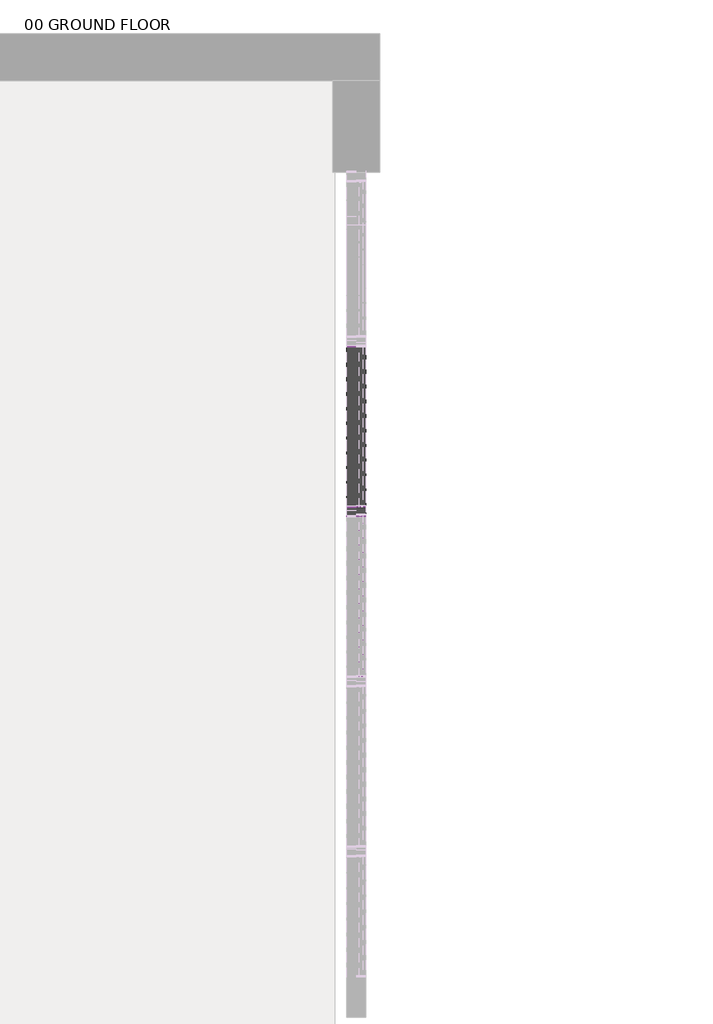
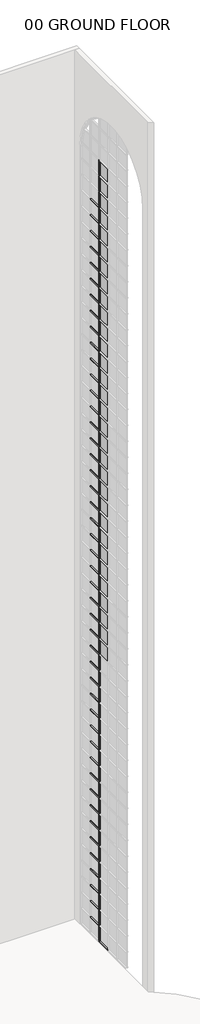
# One storey, part 30 of 33: 96 members, 31 plates.
"""IFC4 building model written with IfcOpenShell, lengths in millimetres."""

import ifcopenshell
import ifcopenshell.guid

model = None  # the IFC model being written
_history = None  # IfcOwnerHistory: only IFC2X3 demands one
_inside = {}  # id of a spatial element -> (the spatial element, [elements in it])
_under = {}  # id of a project, library or spatial element -> (it, [spatial elements below it])
_declared = {}  # id of a project -> (the project, [libraries it declares])
_typed = {}  # id of a type object -> (the type object, [elements of that type])
_made_of = {}  # id of a material, layer set ... -> (it, [elements and type objects made of it])


def new_model(schema):
    """Start an empty IFC model of exactly this schema.

    Asked for "IFC4X3", IfcOpenShell would pick the latest addendum, in which some entities
    have other attributes; the version numbers below select the first issue.
    IFC2X3 requires an IfcOwnerHistory on every rooted entity: one is made here for all.
    """
    global model, _history
    if schema == "IFC4X3":
        model = ifcopenshell.file(schema_version=(4, 3, 0, 0))
    else:
        model = ifcopenshell.file(schema=schema)
    _inside.clear()
    _under.clear()
    _declared.clear()
    _typed.clear()
    _made_of.clear()
    _history = None
    if model.schema == "IFC2X3":
        org = make("IfcOrganization", Name="unknown")
        user = make(
            "IfcPersonAndOrganization",
            ThePerson=make("IfcPerson", FamilyName="unknown"),
            TheOrganization=org,
        )
        app = make(
            "IfcApplication",
            ApplicationDeveloper=org,
            Version="unknown",
            ApplicationFullName="unknown",
            ApplicationIdentifier="unknown",
        )
        _history = make(
            "IfcOwnerHistory",
            OwningUser=user,
            OwningApplication=app,
            ChangeAction="ADDED",
            CreationDate=0,
        )
    return model


def make(cls, **values):
    """One entity of the class cls with the attributes given. An attribute that is None is left unset."""
    return model.create_entity(
        cls, **{name: value for name, value in values.items() if value is not None}
    )


def rooted(cls, **values):
    """An entity with a GlobalId (a new one), such as an element, a storey or a relation."""
    return make(cls, GlobalId=ifcopenshell.guid.new(), OwnerHistory=_history, **values)


def si_unit(unit_type, name, prefix=None):
    """IfcSIUnit, for example si_unit("LENGTHUNIT", "METRE", prefix="MILLI")."""
    return make("IfcSIUnit", UnitType=unit_type, Prefix=prefix, Name=name)


def assignment(units):
    """IfcUnitAssignment: the units of a project."""
    return None if units is None else make("IfcUnitAssignment", Units=units)


def point(xyz):
    """IfcCartesianPoint."""
    return None if xyz is None else make("IfcCartesianPoint", Coordinates=xyz)


def direction(xyz):
    """IfcDirection."""
    return None if xyz is None else make("IfcDirection", DirectionRatios=xyz)


def frame(location, z_axis=None, x_axis=None):
    """IfcAxis2Placement3D, a coordinate frame: its origin and axes. An axis left out is left unset."""
    return make(
        "IfcAxis2Placement3D",
        Location=point(location),
        Axis=direction(z_axis),
        RefDirection=direction(x_axis),
    )


def origin():
    """The frame at (0, 0, 0) with its axes left unset."""
    return frame((0.0, 0.0, 0.0))


def origin_with_axes():
    """The frame at (0, 0, 0) with the z axis (0, 0, 1) and the x axis (1, 0, 0) written out."""
    return frame((0.0, 0.0, 0.0), z_axis=(0.0, 0.0, 1.0), x_axis=(1.0, 0.0, 0.0))


def place(relative_to, where):
    """IfcLocalPlacement: puts the frame where relative to a parent placement (None: the world)."""
    return make(
        "IfcLocalPlacement", PlacementRelTo=relative_to, RelativePlacement=where
    )


def context(
    kind, dimensions, precision=None, world=None, true_north=None, identifier=None
):
    """IfcGeometricRepresentationContext, for example the 3D "Model" context."""
    return make(
        "IfcGeometricRepresentationContext",
        ContextIdentifier=identifier,
        ContextType=kind,
        CoordinateSpaceDimension=dimensions,
        Precision=precision,
        WorldCoordinateSystem=world,
        TrueNorth=true_north,
    )


def project(units=None, contexts=None):
    """IfcProject with its units and contexts."""
    return rooted(
        "IfcProject",
        Name="project",
        RepresentationContexts=contexts,
        UnitsInContext=assignment(units),
    )


def spatial(cls, under=None, at=None, **own):
    """A site, building, storey or space (cls), placed at a placement, below another one or the project."""
    s = rooted(cls, ObjectPlacement=at, **own)
    if under is not None:
        _under.setdefault(under.id(), (under, []))[1].append(s)
    return s


def polyline(points):
    """IfcPolyline through the points."""
    return make("IfcPolyline", Points=[point(p) for p in points])


def outline(outer, holes=None, kind="AREA"):
    """IfcArbitraryClosedProfileDef: a profile drawn as a closed curve; with holes, ...WithVoids."""
    if holes is None:
        return make("IfcArbitraryClosedProfileDef", ProfileType=kind, OuterCurve=outer)
    return make(
        "IfcArbitraryProfileDefWithVoids",
        ProfileType=kind,
        OuterCurve=outer,
        InnerCurves=holes,
    )


def extrude(swept, where, along, depth):
    """IfcExtrudedAreaSolid: the profile swept, set in the frame where, extruded along a direction by depth."""
    return make(
        "IfcExtrudedAreaSolid",
        SweptArea=swept,
        Position=where,
        ExtrudedDirection=direction(along),
        Depth=depth,
    )


def shape(context_of_items, identifier, shape_type, items):
    """IfcShapeRepresentation: the items that make up one representation, for example the "Body"."""
    return make(
        "IfcShapeRepresentation",
        ContextOfItems=context_of_items,
        RepresentationIdentifier=identifier,
        RepresentationType=shape_type,
        Items=items,
    )


def source(mapping_origin, context_of_items, identifier, shape_type, items):
    """IfcRepresentationMap: a shape defined once, which mapped items show again and again."""
    return make(
        "IfcRepresentationMap",
        MappingOrigin=mapping_origin,
        MappedRepresentation=shape(context_of_items, identifier, shape_type, items),
    )


def transform(
    local_origin,
    x_axis=None,
    y_axis=None,
    z_axis=None,
    scale=None,
    scale2=None,
    scale3=None,
    uniform=True,
):
    """IfcCartesianTransformationOperator3D, or its non-uniform kind. x_axis, y_axis, z_axis: its Axis1, 2, 3."""
    if uniform:
        return make(
            "IfcCartesianTransformationOperator3D",
            Axis1=direction(x_axis),
            Axis2=direction(y_axis),
            LocalOrigin=point(local_origin),
            Scale=scale,
            Axis3=direction(z_axis),
        )
    return make(
        "IfcCartesianTransformationOperator3DnonUniform",
        Axis1=direction(x_axis),
        Axis2=direction(y_axis),
        LocalOrigin=point(local_origin),
        Scale=scale,
        Axis3=direction(z_axis),
        Scale2=scale2,
        Scale3=scale3,
    )


def mapped(mapping_source, mapping_target):
    """IfcMappedItem: shows the shape of a source again, moved by a transform."""
    return make(
        "IfcMappedItem", MappingSource=mapping_source, MappingTarget=mapping_target
    )


def made_of(thing, what):
    """Note that an element or type object is made of a material, layer set ...; save() writes the relation."""
    if what is not None:
        _made_of.setdefault(what.id(), (what, []))[1].append(thing)
    return thing


def element(
    cls,
    number,
    at=None,
    inside=None,
    cuts=None,
    type_object=None,
    material=None,
    context=None,
    identifier="Body",
    shape_type=None,
    held_by="IfcProductDefinitionShape",
    body=None,
    shapes=None,
    **own,
):
    """One element of the class cls, such as IfcWall. Its Tag is "e" and its number.

    at: its placement. inside: the storey or other place that contains it. cuts: it is an
    opening in that element (IfcRelVoidsElement). A single representation is given by context,
    identifier, shape_type and body (its items); several are given by shapes. held_by: the class
    of the entity that holds the representations. save() writes the other relations.
    """
    e = rooted(cls, Tag="e%d" % number, ObjectPlacement=at, **own)
    if body is not None:
        shapes = [shape(context, identifier, shape_type, body)]
    if shapes is not None:
        e.Representation = make(held_by, Representations=shapes)
    if inside is not None:
        _inside.setdefault(inside.id(), (inside, []))[1].append(e)
    if cuts is not None:
        rooted(
            "IfcRelVoidsElement", RelatingBuildingElement=cuts, RelatedOpeningElement=e
        )
    if type_object is not None:
        _typed.setdefault(type_object.id(), (type_object, []))[1].append(e)
    return made_of(e, material)


def aggregate(whole, parts):
    """IfcRelAggregates: a whole, such as a stair, and the parts it consists of."""
    return rooted("IfcRelAggregates", RelatingObject=whole, RelatedObjects=parts)


def save(model, path):
    """Write the relations noted so far, then the file.

    IfcRelAggregates (storeys below a building ...), IfcRelContainedInSpatialStructure (elements
    in a storey), IfcRelDefinesByType, IfcRelAssociatesMaterial and IfcRelDeclares: one each for
    every whole, place, type object, material and project.
    """
    for whole, parts in _under.values():
        aggregate(whole, parts)
    for where, things in _inside.values():
        rooted(
            "IfcRelContainedInSpatialStructure",
            RelatedElements=things,
            RelatingStructure=where,
        )
    for kind, things in _typed.values():
        rooted("IfcRelDefinesByType", RelatedObjects=things, RelatingType=kind)
    for what, things in _made_of.values():
        rooted("IfcRelAssociatesMaterial", RelatedObjects=things, RelatingMaterial=what)
    for by, libraries in _declared.values():
        rooted("IfcRelDeclares", RelatingContext=by, RelatedDefinitions=libraries)
    model.write(path)


def member_14f97ceb(model_context):
    return source(origin(), model_context, "Body", "SweptSolid", [
        extrude(outline(polyline([(0.0, 63.5), (0.0, -63.5), (-63.5, -63.5), (-63.5, 63.5), (0.0, 63.5)])), frame((0.0, 0.0, -1068.6142856), z_axis=(0.0, 0.0, 1.0), x_axis=(1.0, 0.0, 0.0)), (0.0, 0.0, 1.0), 1068.6142856),
    ])


def member_d1490fb0(model_context):
    return source(origin(), model_context, "Body", "SweptSolid", [
        extrude(outline(polyline([(31.75, 63.5), (31.75, -63.5), (-31.75, -63.5), (-31.75, 63.5), (31.75, 63.5)])), frame((0.0, 0.0, -1068.6142856), z_axis=(0.0, 0.0, 1.0), x_axis=(1.0, 0.0, 0.0)), (0.0, 0.0, 1.0), 1068.6142856),
    ])


def member_2b49869a(model_context):
    return source(origin(), model_context, "Body", "SweptSolid", [
        extrude(outline(polyline([(31.75, 63.5), (31.75, -63.5), (-31.75, -63.5), (-31.75, 63.5), (31.75, 63.5)])), frame((0.0, 0.0, -1219.2), z_axis=(0.0, 0.0, 1.0), x_axis=(1.0, 0.0, 0.0)), (0.0, 0.0, 1.0), 1219.2),
    ])


def system_panel_glazed_ba000c98(model_context):
    return source(origin(), model_context, "Body", "SweptSolid", [
        extrude(outline(polyline([(534.3071428, 19.05), (-534.3071428, 19.05), (-534.3071428, 44.45), (534.3071428, 44.45), (534.3071428, 19.05)])), origin_with_axes(), (0.0, 0.0, 1.0), 1155.7),
    ])


model = new_model("IFC4")

# Units and contexts
model_context = context("Model", 3, world=origin())
ifc_project = project(units=[si_unit("LENGTHUNIT", "METRE", prefix="MILLI")], contexts=[model_context])

# Site, building, storey
site = spatial("IfcSite", under=ifc_project)
building = spatial("IfcBuilding", under=site)
storey = spatial("IfcBuildingStorey", under=building, Name="00 GROUND FLOOR", Elevation=0.0)

# Members
placement = place(None, origin())
member_shape = member_14f97ceb(model_context)
element("IfcMember", 1, ObjectType="Rectangular Mullion : 2.5\" x 5\" rectangular", at=placement, inside=storey, context=model_context, shape_type="MappedRepresentation", body=[
    mapped(member_shape, transform((44184.4050515, 30777.9964284, 0.0), x_axis=(0.0, 0.0, -1.0), y_axis=(-1.0, 0.0, 0.0), z_axis=(0.0, 1.0, 0.0))),
])
member_2_shape = member_d1490fb0(model_context)
element("IfcMember", 2, ObjectType="Rectangular Mullion : 2.5\" x 5\" rectangular", at=placement, inside=storey, context=model_context, shape_type="MappedRepresentation", body=[
    mapped(member_2_shape, transform((44184.4050515, 30841.4964284, 1219.2), x_axis=(0.0, 0.0, 1.0), y_axis=(-1.0, 0.0, 0.0), z_axis=(0.0, -1.0, 0.0))),
])
element("IfcMember", 3, ObjectType="Rectangular Mullion : 2.5\" x 5\" rectangular", at=placement, inside=storey, context=model_context, shape_type="MappedRepresentation", body=[
    mapped(member_2_shape, transform((44184.4050515, 30841.4964284, 2438.4), x_axis=(0.0, 0.0, 1.0), y_axis=(-1.0, 0.0, 0.0), z_axis=(0.0, -1.0, 0.0))),
])
element("IfcMember", 4, ObjectType="Rectangular Mullion : 2.5\" x 5\" rectangular", at=placement, inside=storey, context=model_context, shape_type="MappedRepresentation", body=[
    mapped(member_2_shape, transform((44184.4050515, 30841.4964284, 3657.6), x_axis=(0.0, 0.0, 1.0), y_axis=(-1.0, 0.0, 0.0), z_axis=(0.0, -1.0, 0.0))),
])
element("IfcMember", 5, ObjectType="Rectangular Mullion : 2.5\" x 5\" rectangular", at=placement, inside=storey, context=model_context, shape_type="MappedRepresentation", body=[
    mapped(member_2_shape, transform((44184.4050515, 30841.4964284, 4876.8), x_axis=(0.0, 0.0, 1.0), y_axis=(-1.0, 0.0, 0.0), z_axis=(0.0, -1.0, 0.0))),
])
element("IfcMember", 6, ObjectType="Rectangular Mullion : 2.5\" x 5\" rectangular", at=placement, inside=storey, context=model_context, shape_type="MappedRepresentation", body=[
    mapped(member_2_shape, transform((44184.4050515, 30841.4964284, 6096.0), x_axis=(0.0, 0.0, 1.0), y_axis=(-1.0, 0.0, 0.0), z_axis=(0.0, -1.0, 0.0))),
])
element("IfcMember", 7, ObjectType="Rectangular Mullion : 2.5\" x 5\" rectangular", at=placement, inside=storey, context=model_context, shape_type="MappedRepresentation", body=[
    mapped(member_2_shape, transform((44184.4050515, 30841.4964284, 7315.2), x_axis=(0.0, 0.0, 1.0), y_axis=(-1.0, 0.0, 0.0), z_axis=(0.0, -1.0, 0.0))),
])
element("IfcMember", 8, ObjectType="Rectangular Mullion : 2.5\" x 5\" rectangular", at=placement, inside=storey, context=model_context, shape_type="MappedRepresentation", body=[
    mapped(member_2_shape, transform((44184.4050515, 30841.4964284, 8534.4), x_axis=(0.0, 0.0, 1.0), y_axis=(-1.0, 0.0, 0.0), z_axis=(0.0, -1.0, 0.0))),
])
element("IfcMember", 9, ObjectType="Rectangular Mullion : 2.5\" x 5\" rectangular", at=placement, inside=storey, context=model_context, shape_type="MappedRepresentation", body=[
    mapped(member_2_shape, transform((44184.4050515, 30841.4964284, 9753.6), x_axis=(0.0, 0.0, 1.0), y_axis=(-1.0, 0.0, 0.0), z_axis=(0.0, -1.0, 0.0))),
])
element("IfcMember", 10, ObjectType="Rectangular Mullion : 2.5\" x 5\" rectangular", at=placement, inside=storey, context=model_context, shape_type="MappedRepresentation", body=[
    mapped(member_2_shape, transform((44184.4050515, 30841.4964284, 10972.8), x_axis=(0.0, 0.0, 1.0), y_axis=(-1.0, 0.0, 0.0), z_axis=(0.0, -1.0, 0.0))),
])
element("IfcMember", 11, ObjectType="Rectangular Mullion : 2.5\" x 5\" rectangular", at=placement, inside=storey, context=model_context, shape_type="MappedRepresentation", body=[
    mapped(member_2_shape, transform((44184.4050515, 30841.4964284, 12192.0), x_axis=(0.0, 0.0, 1.0), y_axis=(-1.0, 0.0, 0.0), z_axis=(0.0, -1.0, 0.0))),
])
element("IfcMember", 12, ObjectType="Rectangular Mullion : 2.5\" x 5\" rectangular", at=placement, inside=storey, context=model_context, shape_type="MappedRepresentation", body=[
    mapped(member_2_shape, transform((44184.4050515, 30841.4964284, 13411.2), x_axis=(0.0, 0.0, 1.0), y_axis=(-1.0, 0.0, 0.0), z_axis=(0.0, -1.0, 0.0))),
])
element("IfcMember", 13, ObjectType="Rectangular Mullion : 2.5\" x 5\" rectangular", at=placement, inside=storey, context=model_context, shape_type="MappedRepresentation", body=[
    mapped(member_2_shape, transform((44184.4050515, 30841.4964284, 14630.4), x_axis=(0.0, 0.0, 1.0), y_axis=(-1.0, 0.0, 0.0), z_axis=(0.0, -1.0, 0.0))),
])
element("IfcMember", 14, ObjectType="Rectangular Mullion : 2.5\" x 5\" rectangular", at=placement, inside=storey, context=model_context, shape_type="MappedRepresentation", body=[
    mapped(member_2_shape, transform((44184.4050515, 30841.4964284, 15849.6), x_axis=(0.0, 0.0, 1.0), y_axis=(-1.0, 0.0, 0.0), z_axis=(0.0, -1.0, 0.0))),
])
element("IfcMember", 15, ObjectType="Rectangular Mullion : 2.5\" x 5\" rectangular", at=placement, inside=storey, context=model_context, shape_type="MappedRepresentation", body=[
    mapped(member_2_shape, transform((44184.4050515, 30841.4964284, 17068.8), x_axis=(0.0, 0.0, 1.0), y_axis=(-1.0, 0.0, 0.0), z_axis=(0.0, -1.0, 0.0))),
])
element("IfcMember", 16, ObjectType="Rectangular Mullion : 2.5\" x 5\" rectangular", at=placement, inside=storey, context=model_context, shape_type="MappedRepresentation", body=[
    mapped(member_2_shape, transform((44184.4050515, 30841.4964284, 18288.0), x_axis=(0.0, 0.0, 1.0), y_axis=(-1.0, 0.0, 0.0), z_axis=(0.0, -1.0, 0.0))),
])
element("IfcMember", 17, ObjectType="Rectangular Mullion : 2.5\" x 5\" rectangular", at=placement, inside=storey, context=model_context, shape_type="MappedRepresentation", body=[
    mapped(member_2_shape, transform((44184.4050515, 30841.4964284, 19507.2), x_axis=(0.0, 0.0, 1.0), y_axis=(-1.0, 0.0, 0.0), z_axis=(0.0, -1.0, 0.0))),
])
element("IfcMember", 18, ObjectType="Rectangular Mullion : 2.5\" x 5\" rectangular", at=placement, inside=storey, context=model_context, shape_type="MappedRepresentation", body=[
    mapped(member_2_shape, transform((44184.4050515, 30841.4964284, 20726.4), x_axis=(0.0, 0.0, 1.0), y_axis=(-1.0, 0.0, 0.0), z_axis=(0.0, -1.0, 0.0))),
])
element("IfcMember", 19, ObjectType="Rectangular Mullion : 2.5\" x 5\" rectangular", at=placement, inside=storey, context=model_context, shape_type="MappedRepresentation", body=[
    mapped(member_2_shape, transform((44184.4050515, 30841.4964284, 21945.6), x_axis=(0.0, 0.0, 1.0), y_axis=(-1.0, 0.0, 0.0), z_axis=(0.0, -1.0, 0.0))),
])
element("IfcMember", 20, ObjectType="Rectangular Mullion : 2.5\" x 5\" rectangular", at=placement, inside=storey, context=model_context, shape_type="MappedRepresentation", body=[
    mapped(member_2_shape, transform((44184.4050515, 30841.4964284, 23164.8), x_axis=(0.0, 0.0, 1.0), y_axis=(-1.0, 0.0, 0.0), z_axis=(0.0, -1.0, 0.0))),
])
element("IfcMember", 21, ObjectType="Rectangular Mullion : 2.5\" x 5\" rectangular", at=placement, inside=storey, context=model_context, shape_type="MappedRepresentation", body=[
    mapped(member_2_shape, transform((44184.4050515, 30841.4964284, 24384.0), x_axis=(0.0, 0.0, 1.0), y_axis=(-1.0, 0.0, 0.0), z_axis=(0.0, -1.0, 0.0))),
])
element("IfcMember", 22, ObjectType="Rectangular Mullion : 2.5\" x 5\" rectangular", at=placement, inside=storey, context=model_context, shape_type="MappedRepresentation", body=[
    mapped(member_2_shape, transform((44184.4050515, 30841.4964284, 25603.2), x_axis=(0.0, 0.0, 1.0), y_axis=(-1.0, 0.0, 0.0), z_axis=(0.0, -1.0, 0.0))),
])
element("IfcMember", 23, ObjectType="Rectangular Mullion : 2.5\" x 5\" rectangular", at=placement, inside=storey, context=model_context, shape_type="MappedRepresentation", body=[
    mapped(member_2_shape, transform((44184.4050515, 30841.4964284, 26822.4), x_axis=(0.0, 0.0, 1.0), y_axis=(-1.0, 0.0, 0.0), z_axis=(0.0, -1.0, 0.0))),
])
element("IfcMember", 24, ObjectType="Rectangular Mullion : 2.5\" x 5\" rectangular", at=placement, inside=storey, context=model_context, shape_type="MappedRepresentation", body=[
    mapped(member_2_shape, transform((44184.4050515, 30841.4964284, 28041.6), x_axis=(0.0, 0.0, 1.0), y_axis=(-1.0, 0.0, 0.0), z_axis=(0.0, -1.0, 0.0))),
])
element("IfcMember", 25, ObjectType="Rectangular Mullion : 2.5\" x 5\" rectangular", at=placement, inside=storey, context=model_context, shape_type="MappedRepresentation", body=[
    mapped(member_2_shape, transform((44184.4050515, 30841.4964284, 29260.8), x_axis=(0.0, 0.0, 1.0), y_axis=(-1.0, 0.0, 0.0), z_axis=(0.0, -1.0, 0.0))),
])
element("IfcMember", 26, ObjectType="Rectangular Mullion : 2.5\" x 5\" rectangular", at=placement, inside=storey, context=model_context, shape_type="MappedRepresentation", body=[
    mapped(member_2_shape, transform((44184.4050515, 30841.4964284, 30480.0), x_axis=(0.0, 0.0, 1.0), y_axis=(-1.0, 0.0, 0.0), z_axis=(0.0, -1.0, 0.0))),
])
element("IfcMember", 27, ObjectType="Rectangular Mullion : 2.5\" x 5\" rectangular", at=placement, inside=storey, context=model_context, shape_type="MappedRepresentation", body=[
    mapped(member_2_shape, transform((44184.4050515, 30841.4964284, 31699.2), x_axis=(0.0, 0.0, 1.0), y_axis=(-1.0, 0.0, 0.0), z_axis=(0.0, -1.0, 0.0))),
])
element("IfcMember", 28, ObjectType="Rectangular Mullion : 2.5\" x 5\" rectangular", at=placement, inside=storey, context=model_context, shape_type="MappedRepresentation", body=[
    mapped(member_2_shape, transform((44184.4050515, 30841.4964284, 32918.4), x_axis=(0.0, 0.0, 1.0), y_axis=(-1.0, 0.0, 0.0), z_axis=(0.0, -1.0, 0.0))),
])
element("IfcMember", 29, ObjectType="Rectangular Mullion : 2.5\" x 5\" rectangular", at=placement, inside=storey, context=model_context, shape_type="MappedRepresentation", body=[
    mapped(member_2_shape, transform((44184.4050515, 30841.4964284, 34137.6), x_axis=(0.0, 0.0, 1.0), y_axis=(-1.0, 0.0, 0.0), z_axis=(0.0, -1.0, 0.0))),
])
element("IfcMember", 30, ObjectType="Rectangular Mullion : 2.5\" x 5\" rectangular", at=placement, inside=storey, context=model_context, shape_type="MappedRepresentation", body=[
    mapped(member_2_shape, transform((44184.4050515, 30841.4964284, 35356.8), x_axis=(0.0, 0.0, 1.0), y_axis=(-1.0, 0.0, 0.0), z_axis=(0.0, -1.0, 0.0))),
])
element("IfcMember", 31, ObjectType="Rectangular Mullion : 2.5\" x 5\" rectangular", at=placement, inside=storey, context=model_context, shape_type="MappedRepresentation", body=[
    mapped(member_2_shape, transform((44184.4050515, 30841.4964284, 36576.0), x_axis=(0.0, 0.0, 1.0), y_axis=(-1.0, 0.0, 0.0), z_axis=(0.0, -1.0, 0.0))),
])
element("IfcMember", 32, ObjectType="Rectangular Mullion : 2.5\" x 5\" rectangular", at=placement, inside=storey, context=model_context, shape_type="MappedRepresentation", body=[
    mapped(member_2_shape, transform((44184.4050515, 30841.4964284, 37795.2), x_axis=(0.0, 0.0, 1.0), y_axis=(-1.0, 0.0, 0.0), z_axis=(0.0, -1.0, 0.0))),
])
element("IfcMember", 33, ObjectType="Rectangular Mullion : 2.5\" x 5\" rectangular", at=placement, inside=storey, context=model_context, shape_type="MappedRepresentation", body=[
    mapped(member_2_shape, transform((44184.4050515, 30841.4964284, 39014.4), x_axis=(0.0, 0.0, 1.0), y_axis=(-1.0, 0.0, 0.0), z_axis=(0.0, -1.0, 0.0))),
])
element("IfcMember", 34, ObjectType="Rectangular Mullion : 2.5\" x 5\" rectangular", at=placement, inside=storey, context=model_context, shape_type="MappedRepresentation", body=[
    mapped(member_2_shape, transform((44184.4050515, 30841.4964284, 40233.6), x_axis=(0.0, 0.0, 1.0), y_axis=(-1.0, 0.0, 0.0), z_axis=(0.0, -1.0, 0.0))),
])
element("IfcMember", 35, ObjectType="Rectangular Mullion : 2.5\" x 5\" rectangular", at=placement, inside=storey, context=model_context, shape_type="MappedRepresentation", body=[
    mapped(member_2_shape, transform((44184.4050515, 30841.4964284, 41452.8), x_axis=(0.0, 0.0, 1.0), y_axis=(-1.0, 0.0, 0.0), z_axis=(0.0, -1.0, 0.0))),
])
element("IfcMember", 36, ObjectType="Rectangular Mullion : 2.5\" x 5\" rectangular", at=placement, inside=storey, context=model_context, shape_type="MappedRepresentation", body=[
    mapped(member_2_shape, transform((44184.4050515, 30841.4964284, 42672.0), x_axis=(0.0, 0.0, 1.0), y_axis=(-1.0, 0.0, 0.0), z_axis=(0.0, -1.0, 0.0))),
])
element("IfcMember", 37, ObjectType="Rectangular Mullion : 2.5\" x 5\" rectangular", at=placement, inside=storey, context=model_context, shape_type="MappedRepresentation", body=[
    mapped(member_2_shape, transform((44184.4050515, 30841.4964284, 43891.2), x_axis=(0.0, 0.0, 1.0), y_axis=(-1.0, 0.0, 0.0), z_axis=(0.0, -1.0, 0.0))),
])
element("IfcMember", 38, ObjectType="Rectangular Mullion : 2.5\" x 5\" rectangular", at=placement, inside=storey, context=model_context, shape_type="MappedRepresentation", body=[
    mapped(member_2_shape, transform((44184.4050515, 30841.4964284, 45110.4), x_axis=(0.0, 0.0, 1.0), y_axis=(-1.0, 0.0, 0.0), z_axis=(0.0, -1.0, 0.0))),
])
element("IfcMember", 39, ObjectType="Rectangular Mullion : 2.5\" x 5\" rectangular", at=placement, inside=storey, context=model_context, shape_type="MappedRepresentation", body=[
    mapped(member_2_shape, transform((44184.4050515, 30841.4964284, 46329.6), x_axis=(0.0, 0.0, 1.0), y_axis=(-1.0, 0.0, 0.0), z_axis=(0.0, -1.0, 0.0))),
])
element("IfcMember", 40, ObjectType="Rectangular Mullion : 2.5\" x 5\" rectangular", at=placement, inside=storey, context=model_context, shape_type="MappedRepresentation", body=[
    mapped(member_2_shape, transform((44184.4050515, 30841.4964284, 47548.8), x_axis=(0.0, 0.0, 1.0), y_axis=(-1.0, 0.0, 0.0), z_axis=(0.0, -1.0, 0.0))),
])
element("IfcMember", 41, ObjectType="Rectangular Mullion : 2.5\" x 5\" rectangular", at=placement, inside=storey, context=model_context, shape_type="MappedRepresentation", body=[
    mapped(member_2_shape, transform((44184.4050515, 30841.4964284, 48768.0), x_axis=(0.0, 0.0, 1.0), y_axis=(-1.0, 0.0, 0.0), z_axis=(0.0, -1.0, 0.0))),
])
element("IfcMember", 42, ObjectType="Rectangular Mullion : 2.5\" x 5\" rectangular", at=placement, inside=storey, context=model_context, shape_type="MappedRepresentation", body=[
    mapped(member_2_shape, transform((44184.4050515, 30841.4964284, 49987.2), x_axis=(0.0, 0.0, 1.0), y_axis=(-1.0, 0.0, 0.0), z_axis=(0.0, -1.0, 0.0))),
])
element("IfcMember", 43, ObjectType="Rectangular Mullion : 2.5\" x 5\" rectangular", at=placement, inside=storey, context=model_context, shape_type="MappedRepresentation", body=[
    mapped(member_2_shape, transform((44184.4050515, 30841.4964284, 51206.4), x_axis=(0.0, 0.0, 1.0), y_axis=(-1.0, 0.0, 0.0), z_axis=(0.0, -1.0, 0.0))),
])
element("IfcMember", 44, ObjectType="Rectangular Mullion : 2.5\" x 5\" rectangular", at=placement, inside=storey, context=model_context, shape_type="MappedRepresentation", body=[
    mapped(member_2_shape, transform((44184.4050515, 30841.4964284, 52425.6), x_axis=(0.0, 0.0, 1.0), y_axis=(-1.0, 0.0, 0.0), z_axis=(0.0, -1.0, 0.0))),
])
element("IfcMember", 45, ObjectType="Rectangular Mullion : 2.5\" x 5\" rectangular", at=placement, inside=storey, context=model_context, shape_type="MappedRepresentation", body=[
    mapped(member_2_shape, transform((44184.4050515, 30841.4964284, 53644.8), x_axis=(0.0, 0.0, 1.0), y_axis=(-1.0, 0.0, 0.0), z_axis=(0.0, -1.0, 0.0))),
])
element("IfcMember", 46, ObjectType="Rectangular Mullion : 2.5\" x 5\" rectangular", at=placement, inside=storey, context=model_context, shape_type="MappedRepresentation", body=[
    mapped(member_2_shape, transform((44184.4050515, 30841.4964284, 54864.0), x_axis=(0.0, 0.0, 1.0), y_axis=(-1.0, 0.0, 0.0), z_axis=(0.0, -1.0, 0.0))),
])
element("IfcMember", 47, ObjectType="Rectangular Mullion : 2.5\" x 5\" rectangular", at=placement, inside=storey, context=model_context, shape_type="MappedRepresentation", body=[
    mapped(member_2_shape, transform((44184.4050515, 30841.4964284, 56083.2), x_axis=(0.0, 0.0, 1.0), y_axis=(-1.0, 0.0, 0.0), z_axis=(0.0, -1.0, 0.0))),
])
member_3_shape = member_2b49869a(model_context)
element("IfcMember", 48, ObjectType="Rectangular Mullion : 2.5\" x 5\" rectangular", at=placement, inside=storey, context=model_context, shape_type="MappedRepresentation", body=[
    mapped(member_3_shape, transform((44184.4050515, 30809.7464284, 0.0), x_axis=(0.0, -1.0, 0.0), y_axis=(-1.0, 0.0, 0.0), z_axis=(0.0, 0.0, -1.0))),
])
element("IfcMember", 49, ObjectType="Rectangular Mullion : 2.5\" x 5\" rectangular", at=placement, inside=storey, context=model_context, shape_type="MappedRepresentation", body=[
    mapped(member_3_shape, transform((44184.4050515, 30809.7464284, 1219.2), x_axis=(0.0, -1.0, 0.0), y_axis=(-1.0, 0.0, 0.0), z_axis=(0.0, 0.0, -1.0))),
])
element("IfcMember", 50, ObjectType="Rectangular Mullion : 2.5\" x 5\" rectangular", at=placement, inside=storey, context=model_context, shape_type="MappedRepresentation", body=[
    mapped(member_3_shape, transform((44184.4050515, 30809.7464284, 2438.4), x_axis=(0.0, -1.0, 0.0), y_axis=(-1.0, 0.0, 0.0), z_axis=(0.0, 0.0, -1.0))),
])
element("IfcMember", 51, ObjectType="Rectangular Mullion : 2.5\" x 5\" rectangular", at=placement, inside=storey, context=model_context, shape_type="MappedRepresentation", body=[
    mapped(member_3_shape, transform((44184.4050515, 30809.7464284, 3657.6), x_axis=(0.0, -1.0, 0.0), y_axis=(-1.0, 0.0, 0.0), z_axis=(0.0, 0.0, -1.0))),
])
element("IfcMember", 52, ObjectType="Rectangular Mullion : 2.5\" x 5\" rectangular", at=placement, inside=storey, context=model_context, shape_type="MappedRepresentation", body=[
    mapped(member_3_shape, transform((44184.4050515, 30809.7464284, 4876.8), x_axis=(0.0, -1.0, 0.0), y_axis=(-1.0, 0.0, 0.0), z_axis=(0.0, 0.0, -1.0))),
])
element("IfcMember", 53, ObjectType="Rectangular Mullion : 2.5\" x 5\" rectangular", at=placement, inside=storey, context=model_context, shape_type="MappedRepresentation", body=[
    mapped(member_3_shape, transform((44184.4050515, 30809.7464284, 6096.0), x_axis=(0.0, -1.0, 0.0), y_axis=(-1.0, 0.0, 0.0), z_axis=(0.0, 0.0, -1.0))),
])
element("IfcMember", 54, ObjectType="Rectangular Mullion : 2.5\" x 5\" rectangular", at=placement, inside=storey, context=model_context, shape_type="MappedRepresentation", body=[
    mapped(member_3_shape, transform((44184.4050515, 30809.7464284, 7315.2), x_axis=(0.0, -1.0, 0.0), y_axis=(-1.0, 0.0, 0.0), z_axis=(0.0, 0.0, -1.0))),
])
element("IfcMember", 55, ObjectType="Rectangular Mullion : 2.5\" x 5\" rectangular", at=placement, inside=storey, context=model_context, shape_type="MappedRepresentation", body=[
    mapped(member_3_shape, transform((44184.4050515, 30809.7464284, 8534.4), x_axis=(0.0, -1.0, 0.0), y_axis=(-1.0, 0.0, 0.0), z_axis=(0.0, 0.0, -1.0))),
])
element("IfcMember", 56, ObjectType="Rectangular Mullion : 2.5\" x 5\" rectangular", at=placement, inside=storey, context=model_context, shape_type="MappedRepresentation", body=[
    mapped(member_3_shape, transform((44184.4050515, 30809.7464284, 9753.6), x_axis=(0.0, -1.0, 0.0), y_axis=(-1.0, 0.0, 0.0), z_axis=(0.0, 0.0, -1.0))),
])
element("IfcMember", 57, ObjectType="Rectangular Mullion : 2.5\" x 5\" rectangular", at=placement, inside=storey, context=model_context, shape_type="MappedRepresentation", body=[
    mapped(member_3_shape, transform((44184.4050515, 30809.7464284, 10972.8), x_axis=(0.0, -1.0, 0.0), y_axis=(-1.0, 0.0, 0.0), z_axis=(0.0, 0.0, -1.0))),
])
element("IfcMember", 58, ObjectType="Rectangular Mullion : 2.5\" x 5\" rectangular", at=placement, inside=storey, context=model_context, shape_type="MappedRepresentation", body=[
    mapped(member_3_shape, transform((44184.4050515, 30809.7464284, 12192.0), x_axis=(0.0, -1.0, 0.0), y_axis=(-1.0, 0.0, 0.0), z_axis=(0.0, 0.0, -1.0))),
])
element("IfcMember", 59, ObjectType="Rectangular Mullion : 2.5\" x 5\" rectangular", at=placement, inside=storey, context=model_context, shape_type="MappedRepresentation", body=[
    mapped(member_3_shape, transform((44184.4050515, 30809.7464284, 13411.2), x_axis=(0.0, -1.0, 0.0), y_axis=(-1.0, 0.0, 0.0), z_axis=(0.0, 0.0, -1.0))),
])
element("IfcMember", 60, ObjectType="Rectangular Mullion : 2.5\" x 5\" rectangular", at=placement, inside=storey, context=model_context, shape_type="MappedRepresentation", body=[
    mapped(member_3_shape, transform((44184.4050515, 30809.7464284, 14630.4), x_axis=(0.0, -1.0, 0.0), y_axis=(-1.0, 0.0, 0.0), z_axis=(0.0, 0.0, -1.0))),
])
element("IfcMember", 61, ObjectType="Rectangular Mullion : 2.5\" x 5\" rectangular", at=placement, inside=storey, context=model_context, shape_type="MappedRepresentation", body=[
    mapped(member_3_shape, transform((44184.4050515, 30809.7464284, 15849.6), x_axis=(0.0, -1.0, 0.0), y_axis=(-1.0, 0.0, 0.0), z_axis=(0.0, 0.0, -1.0))),
])
element("IfcMember", 62, ObjectType="Rectangular Mullion : 2.5\" x 5\" rectangular", at=placement, inside=storey, context=model_context, shape_type="MappedRepresentation", body=[
    mapped(member_3_shape, transform((44184.4050515, 30809.7464284, 17068.8), x_axis=(0.0, -1.0, 0.0), y_axis=(-1.0, 0.0, 0.0), z_axis=(0.0, 0.0, -1.0))),
])
element("IfcMember", 63, ObjectType="Rectangular Mullion : 2.5\" x 5\" rectangular", at=placement, inside=storey, context=model_context, shape_type="MappedRepresentation", body=[
    mapped(member_3_shape, transform((44184.4050515, 30809.7464284, 18288.0), x_axis=(0.0, -1.0, 0.0), y_axis=(-1.0, 0.0, 0.0), z_axis=(0.0, 0.0, -1.0))),
])
element("IfcMember", 64, ObjectType="Rectangular Mullion : 2.5\" x 5\" rectangular", at=placement, inside=storey, context=model_context, shape_type="MappedRepresentation", body=[
    mapped(member_3_shape, transform((44184.4050515, 30809.7464284, 19507.2), x_axis=(0.0, -1.0, 0.0), y_axis=(-1.0, 0.0, 0.0), z_axis=(0.0, 0.0, -1.0))),
])
element("IfcMember", 65, ObjectType="Rectangular Mullion : 2.5\" x 5\" rectangular", at=placement, inside=storey, context=model_context, shape_type="MappedRepresentation", body=[
    mapped(member_3_shape, transform((44184.4050515, 30809.7464284, 20726.4), x_axis=(0.0, -1.0, 0.0), y_axis=(-1.0, 0.0, 0.0), z_axis=(0.0, 0.0, -1.0))),
])
element("IfcMember", 66, ObjectType="Rectangular Mullion : 2.5\" x 5\" rectangular", at=placement, inside=storey, context=model_context, shape_type="MappedRepresentation", body=[
    mapped(member_3_shape, transform((44184.4050515, 30809.7464284, 21945.6), x_axis=(0.0, -1.0, 0.0), y_axis=(-1.0, 0.0, 0.0), z_axis=(0.0, 0.0, -1.0))),
])
element("IfcMember", 67, ObjectType="Rectangular Mullion : 2.5\" x 5\" rectangular", at=placement, inside=storey, context=model_context, shape_type="MappedRepresentation", body=[
    mapped(member_3_shape, transform((44184.4050515, 30809.7464284, 23164.8), x_axis=(0.0, -1.0, 0.0), y_axis=(-1.0, 0.0, 0.0), z_axis=(0.0, 0.0, -1.0))),
])
element("IfcMember", 68, ObjectType="Rectangular Mullion : 2.5\" x 5\" rectangular", at=placement, inside=storey, context=model_context, shape_type="MappedRepresentation", body=[
    mapped(member_3_shape, transform((44184.4050515, 30809.7464284, 24384.0), x_axis=(0.0, -1.0, 0.0), y_axis=(-1.0, 0.0, 0.0), z_axis=(0.0, 0.0, -1.0))),
])
element("IfcMember", 69, ObjectType="Rectangular Mullion : 2.5\" x 5\" rectangular", at=placement, inside=storey, context=model_context, shape_type="MappedRepresentation", body=[
    mapped(member_3_shape, transform((44184.4050515, 30809.7464284, 25603.2), x_axis=(0.0, -1.0, 0.0), y_axis=(-1.0, 0.0, 0.0), z_axis=(0.0, 0.0, -1.0))),
])
element("IfcMember", 70, ObjectType="Rectangular Mullion : 2.5\" x 5\" rectangular", at=placement, inside=storey, context=model_context, shape_type="MappedRepresentation", body=[
    mapped(member_3_shape, transform((44184.4050515, 30809.7464284, 26822.4), x_axis=(0.0, -1.0, 0.0), y_axis=(-1.0, 0.0, 0.0), z_axis=(0.0, 0.0, -1.0))),
])
element("IfcMember", 71, ObjectType="Rectangular Mullion : 2.5\" x 5\" rectangular", at=placement, inside=storey, context=model_context, shape_type="MappedRepresentation", body=[
    mapped(member_3_shape, transform((44184.4050515, 30809.7464284, 28041.6), x_axis=(0.0, -1.0, 0.0), y_axis=(-1.0, 0.0, 0.0), z_axis=(0.0, 0.0, -1.0))),
])
element("IfcMember", 72, ObjectType="Rectangular Mullion : 2.5\" x 5\" rectangular", at=placement, inside=storey, context=model_context, shape_type="MappedRepresentation", body=[
    mapped(member_3_shape, transform((44184.4050515, 30809.7464284, 29260.8), x_axis=(0.0, -1.0, 0.0), y_axis=(-1.0, 0.0, 0.0), z_axis=(0.0, 0.0, -1.0))),
])
element("IfcMember", 73, ObjectType="Rectangular Mullion : 2.5\" x 5\" rectangular", at=placement, inside=storey, context=model_context, shape_type="MappedRepresentation", body=[
    mapped(member_3_shape, transform((44184.4050515, 30809.7464284, 30480.0), x_axis=(0.0, -1.0, 0.0), y_axis=(-1.0, 0.0, 0.0), z_axis=(0.0, 0.0, -1.0))),
])
element("IfcMember", 74, ObjectType="Rectangular Mullion : 2.5\" x 5\" rectangular", at=placement, inside=storey, context=model_context, shape_type="MappedRepresentation", body=[
    mapped(member_3_shape, transform((44184.4050515, 30809.7464284, 31699.2), x_axis=(0.0, -1.0, 0.0), y_axis=(-1.0, 0.0, 0.0), z_axis=(0.0, 0.0, -1.0))),
])
element("IfcMember", 75, ObjectType="Rectangular Mullion : 2.5\" x 5\" rectangular", at=placement, inside=storey, context=model_context, shape_type="MappedRepresentation", body=[
    mapped(member_3_shape, transform((44184.4050515, 30809.7464284, 32918.4), x_axis=(0.0, -1.0, 0.0), y_axis=(-1.0, 0.0, 0.0), z_axis=(0.0, 0.0, -1.0))),
])
element("IfcMember", 76, ObjectType="Rectangular Mullion : 2.5\" x 5\" rectangular", at=placement, inside=storey, context=model_context, shape_type="MappedRepresentation", body=[
    mapped(member_3_shape, transform((44184.4050515, 30809.7464284, 34137.6), x_axis=(0.0, -1.0, 0.0), y_axis=(-1.0, 0.0, 0.0), z_axis=(0.0, 0.0, -1.0))),
])
element("IfcMember", 77, ObjectType="Rectangular Mullion : 2.5\" x 5\" rectangular", at=placement, inside=storey, context=model_context, shape_type="MappedRepresentation", body=[
    mapped(member_3_shape, transform((44184.4050515, 30809.7464284, 35356.8), x_axis=(0.0, -1.0, 0.0), y_axis=(-1.0, 0.0, 0.0), z_axis=(0.0, 0.0, -1.0))),
])
element("IfcMember", 78, ObjectType="Rectangular Mullion : 2.5\" x 5\" rectangular", at=placement, inside=storey, context=model_context, shape_type="MappedRepresentation", body=[
    mapped(member_3_shape, transform((44184.4050515, 30809.7464284, 36576.0), x_axis=(0.0, -1.0, 0.0), y_axis=(-1.0, 0.0, 0.0), z_axis=(0.0, 0.0, -1.0))),
])
element("IfcMember", 79, ObjectType="Rectangular Mullion : 2.5\" x 5\" rectangular", at=placement, inside=storey, context=model_context, shape_type="MappedRepresentation", body=[
    mapped(member_3_shape, transform((44184.4050515, 30809.7464284, 37795.2), x_axis=(0.0, -1.0, 0.0), y_axis=(-1.0, 0.0, 0.0), z_axis=(0.0, 0.0, -1.0))),
])
element("IfcMember", 80, ObjectType="Rectangular Mullion : 2.5\" x 5\" rectangular", at=placement, inside=storey, context=model_context, shape_type="MappedRepresentation", body=[
    mapped(member_3_shape, transform((44184.4050515, 30809.7464284, 39014.4), x_axis=(0.0, -1.0, 0.0), y_axis=(-1.0, 0.0, 0.0), z_axis=(0.0, 0.0, -1.0))),
])
element("IfcMember", 81, ObjectType="Rectangular Mullion : 2.5\" x 5\" rectangular", at=placement, inside=storey, context=model_context, shape_type="MappedRepresentation", body=[
    mapped(member_3_shape, transform((44184.4050515, 30809.7464284, 40233.6), x_axis=(0.0, -1.0, 0.0), y_axis=(-1.0, 0.0, 0.0), z_axis=(0.0, 0.0, -1.0))),
])
element("IfcMember", 82, ObjectType="Rectangular Mullion : 2.5\" x 5\" rectangular", at=placement, inside=storey, context=model_context, shape_type="MappedRepresentation", body=[
    mapped(member_3_shape, transform((44184.4050515, 30809.7464284, 41452.8), x_axis=(0.0, -1.0, 0.0), y_axis=(-1.0, 0.0, 0.0), z_axis=(0.0, 0.0, -1.0))),
])
element("IfcMember", 83, ObjectType="Rectangular Mullion : 2.5\" x 5\" rectangular", at=placement, inside=storey, context=model_context, shape_type="MappedRepresentation", body=[
    mapped(member_3_shape, transform((44184.4050515, 30809.7464284, 42672.0), x_axis=(0.0, -1.0, 0.0), y_axis=(-1.0, 0.0, 0.0), z_axis=(0.0, 0.0, -1.0))),
])
element("IfcMember", 84, ObjectType="Rectangular Mullion : 2.5\" x 5\" rectangular", at=placement, inside=storey, context=model_context, shape_type="MappedRepresentation", body=[
    mapped(member_3_shape, transform((44184.4050515, 30809.7464284, 43891.2), x_axis=(0.0, -1.0, 0.0), y_axis=(-1.0, 0.0, 0.0), z_axis=(0.0, 0.0, -1.0))),
])
element("IfcMember", 85, ObjectType="Rectangular Mullion : 2.5\" x 5\" rectangular", at=placement, inside=storey, context=model_context, shape_type="MappedRepresentation", body=[
    mapped(member_3_shape, transform((44184.4050515, 30809.7464284, 45110.4), x_axis=(0.0, -1.0, 0.0), y_axis=(-1.0, 0.0, 0.0), z_axis=(0.0, 0.0, -1.0))),
])
element("IfcMember", 86, ObjectType="Rectangular Mullion : 2.5\" x 5\" rectangular", at=placement, inside=storey, context=model_context, shape_type="MappedRepresentation", body=[
    mapped(member_3_shape, transform((44184.4050515, 30809.7464284, 46329.6), x_axis=(0.0, -1.0, 0.0), y_axis=(-1.0, 0.0, 0.0), z_axis=(0.0, 0.0, -1.0))),
])
element("IfcMember", 87, ObjectType="Rectangular Mullion : 2.5\" x 5\" rectangular", at=placement, inside=storey, context=model_context, shape_type="MappedRepresentation", body=[
    mapped(member_3_shape, transform((44184.4050515, 30809.7464284, 47548.8), x_axis=(0.0, -1.0, 0.0), y_axis=(-1.0, 0.0, 0.0), z_axis=(0.0, 0.0, -1.0))),
])
element("IfcMember", 88, ObjectType="Rectangular Mullion : 2.5\" x 5\" rectangular", at=placement, inside=storey, context=model_context, shape_type="MappedRepresentation", body=[
    mapped(member_3_shape, transform((44184.4050515, 30809.7464284, 48768.0), x_axis=(0.0, -1.0, 0.0), y_axis=(-1.0, 0.0, 0.0), z_axis=(0.0, 0.0, -1.0))),
])
element("IfcMember", 89, ObjectType="Rectangular Mullion : 2.5\" x 5\" rectangular", at=placement, inside=storey, context=model_context, shape_type="MappedRepresentation", body=[
    mapped(member_3_shape, transform((44184.4050515, 30809.7464284, 49987.2), x_axis=(0.0, -1.0, 0.0), y_axis=(-1.0, 0.0, 0.0), z_axis=(0.0, 0.0, -1.0))),
])
element("IfcMember", 90, ObjectType="Rectangular Mullion : 2.5\" x 5\" rectangular", at=placement, inside=storey, context=model_context, shape_type="MappedRepresentation", body=[
    mapped(member_3_shape, transform((44184.4050515, 30809.7464284, 51206.4), x_axis=(0.0, -1.0, 0.0), y_axis=(-1.0, 0.0, 0.0), z_axis=(0.0, 0.0, -1.0))),
])
element("IfcMember", 91, ObjectType="Rectangular Mullion : 2.5\" x 5\" rectangular", at=placement, inside=storey, context=model_context, shape_type="MappedRepresentation", body=[
    mapped(member_3_shape, transform((44184.4050515, 30809.7464284, 52425.6), x_axis=(0.0, -1.0, 0.0), y_axis=(-1.0, 0.0, 0.0), z_axis=(0.0, 0.0, -1.0))),
])
element("IfcMember", 92, ObjectType="Rectangular Mullion : 2.5\" x 5\" rectangular", at=placement, inside=storey, context=model_context, shape_type="MappedRepresentation", body=[
    mapped(member_3_shape, transform((44184.4050515, 30809.7464284, 53644.8), x_axis=(0.0, -1.0, 0.0), y_axis=(-1.0, 0.0, 0.0), z_axis=(0.0, 0.0, -1.0))),
])
element("IfcMember", 93, ObjectType="Rectangular Mullion : 2.5\" x 5\" rectangular", at=placement, inside=storey, context=model_context, shape_type="MappedRepresentation", body=[
    mapped(member_3_shape, transform((44184.4050515, 30809.7464284, 54864.0), x_axis=(0.0, -1.0, 0.0), y_axis=(-1.0, 0.0, 0.0), z_axis=(0.0, 0.0, -1.0))),
])
element("IfcMember", 94, ObjectType="Rectangular Mullion : 2.5\" x 5\" rectangular", at=placement, inside=storey, context=model_context, shape_type="MappedRepresentation", body=[
    mapped(member_3_shape, transform((44184.4050515, 30809.7464284, 56083.2), x_axis=(0.0, -1.0, 0.0), y_axis=(-1.0, 0.0, 0.0), z_axis=(0.0, 0.0, -1.0))),
])
element("IfcMember", 95, ObjectType="Rectangular Mullion : 2.5\" x 5\" rectangular", at=placement, inside=storey, context=model_context, shape_type="MappedRepresentation", body=[
    mapped(member_3_shape, transform((44184.4050515, 30809.7464284, 57302.4), x_axis=(0.0, -1.0, 0.0), y_axis=(-1.0, 0.0, 0.0), z_axis=(0.0, 0.0, -1.0))),
])
element("IfcMember", 96, ObjectType="Rectangular Mullion : 2.5\" x 5\" rectangular", at=placement, inside=storey, context=model_context, shape_type="MappedRepresentation", body=[
    mapped(member_3_shape, transform((44184.4050515, 30809.7464284, 58521.6), x_axis=(0.0, -1.0, 0.0), y_axis=(-1.0, 0.0, 0.0), z_axis=(0.0, 0.0, -1.0))),
])

# Plates
system_panel_glazed_shape = system_panel_glazed_ba000c98(model_context)
element("IfcPlate", 97, ObjectType="System Panel : Glazed", at=placement, inside=storey, context=model_context, shape_type="MappedRepresentation", body=[
    mapped(system_panel_glazed_shape, transform((44184.4050515, 30243.6892856, 21977.35), x_axis=(0.0, -1.0, 0.0), y_axis=(1.0, 0.0, 0.0), z_axis=(0.0, 0.0, 1.0))),
])
element("IfcPlate", 98, ObjectType="System Panel : Glazed", at=placement, inside=storey, context=model_context, shape_type="MappedRepresentation", body=[
    mapped(system_panel_glazed_shape, transform((44184.4050515, 30243.6892856, 23196.55), x_axis=(0.0, -1.0, 0.0), y_axis=(1.0, 0.0, 0.0), z_axis=(0.0, 0.0, 1.0))),
])
element("IfcPlate", 99, ObjectType="System Panel : Glazed", at=placement, inside=storey, context=model_context, shape_type="MappedRepresentation", body=[
    mapped(system_panel_glazed_shape, transform((44184.4050515, 30243.6892856, 24415.75), x_axis=(0.0, -1.0, 0.0), y_axis=(1.0, 0.0, 0.0), z_axis=(0.0, 0.0, 1.0))),
])
element("IfcPlate", 100, ObjectType="System Panel : Glazed", at=placement, inside=storey, context=model_context, shape_type="MappedRepresentation", body=[
    mapped(system_panel_glazed_shape, transform((44184.4050515, 30243.6892856, 25634.95), x_axis=(0.0, -1.0, 0.0), y_axis=(1.0, 0.0, 0.0), z_axis=(0.0, 0.0, 1.0))),
])
element("IfcPlate", 101, ObjectType="System Panel : Glazed", at=placement, inside=storey, context=model_context, shape_type="MappedRepresentation", body=[
    mapped(system_panel_glazed_shape, transform((44184.4050515, 30243.6892856, 26854.15), x_axis=(0.0, -1.0, 0.0), y_axis=(1.0, 0.0, 0.0), z_axis=(0.0, 0.0, 1.0))),
])
element("IfcPlate", 102, ObjectType="System Panel : Glazed", at=placement, inside=storey, context=model_context, shape_type="MappedRepresentation", body=[
    mapped(system_panel_glazed_shape, transform((44184.4050515, 30243.6892856, 28073.35), x_axis=(0.0, -1.0, 0.0), y_axis=(1.0, 0.0, 0.0), z_axis=(0.0, 0.0, 1.0))),
])
element("IfcPlate", 103, ObjectType="System Panel : Glazed", at=placement, inside=storey, context=model_context, shape_type="MappedRepresentation", body=[
    mapped(system_panel_glazed_shape, transform((44184.4050515, 30243.6892856, 29292.55), x_axis=(0.0, -1.0, 0.0), y_axis=(1.0, 0.0, 0.0), z_axis=(0.0, 0.0, 1.0))),
])
element("IfcPlate", 104, ObjectType="System Panel : Glazed", at=placement, inside=storey, context=model_context, shape_type="MappedRepresentation", body=[
    mapped(system_panel_glazed_shape, transform((44184.4050515, 30243.6892856, 30511.75), x_axis=(0.0, -1.0, 0.0), y_axis=(1.0, 0.0, 0.0), z_axis=(0.0, 0.0, 1.0))),
])
element("IfcPlate", 105, ObjectType="System Panel : Glazed", at=placement, inside=storey, context=model_context, shape_type="MappedRepresentation", body=[
    mapped(system_panel_glazed_shape, transform((44184.4050515, 30243.6892856, 31730.95), x_axis=(0.0, -1.0, 0.0), y_axis=(1.0, 0.0, 0.0), z_axis=(0.0, 0.0, 1.0))),
])
element("IfcPlate", 106, ObjectType="System Panel : Glazed", at=placement, inside=storey, context=model_context, shape_type="MappedRepresentation", body=[
    mapped(system_panel_glazed_shape, transform((44184.4050515, 30243.6892856, 32950.15), x_axis=(0.0, -1.0, 0.0), y_axis=(1.0, 0.0, 0.0), z_axis=(0.0, 0.0, 1.0))),
])
element("IfcPlate", 107, ObjectType="System Panel : Glazed", at=placement, inside=storey, context=model_context, shape_type="MappedRepresentation", body=[
    mapped(system_panel_glazed_shape, transform((44184.4050515, 30243.6892856, 34169.35), x_axis=(0.0, -1.0, 0.0), y_axis=(1.0, 0.0, 0.0), z_axis=(0.0, 0.0, 1.0))),
])
element("IfcPlate", 108, ObjectType="System Panel : Glazed", at=placement, inside=storey, context=model_context, shape_type="MappedRepresentation", body=[
    mapped(system_panel_glazed_shape, transform((44184.4050515, 30243.6892856, 35388.55), x_axis=(0.0, -1.0, 0.0), y_axis=(1.0, 0.0, 0.0), z_axis=(0.0, 0.0, 1.0))),
])
element("IfcPlate", 109, ObjectType="System Panel : Glazed", at=placement, inside=storey, context=model_context, shape_type="MappedRepresentation", body=[
    mapped(system_panel_glazed_shape, transform((44184.4050515, 30243.6892856, 36607.75), x_axis=(0.0, -1.0, 0.0), y_axis=(1.0, 0.0, 0.0), z_axis=(0.0, 0.0, 1.0))),
])
element("IfcPlate", 110, ObjectType="System Panel : Glazed", at=placement, inside=storey, context=model_context, shape_type="MappedRepresentation", body=[
    mapped(system_panel_glazed_shape, transform((44184.4050515, 30243.6892856, 37826.95), x_axis=(0.0, -1.0, 0.0), y_axis=(1.0, 0.0, 0.0), z_axis=(0.0, 0.0, 1.0))),
])
element("IfcPlate", 111, ObjectType="System Panel : Glazed", at=placement, inside=storey, context=model_context, shape_type="MappedRepresentation", body=[
    mapped(system_panel_glazed_shape, transform((44184.4050515, 30243.6892856, 39046.15), x_axis=(0.0, -1.0, 0.0), y_axis=(1.0, 0.0, 0.0), z_axis=(0.0, 0.0, 1.0))),
])
element("IfcPlate", 112, ObjectType="System Panel : Glazed", at=placement, inside=storey, context=model_context, shape_type="MappedRepresentation", body=[
    mapped(system_panel_glazed_shape, transform((44184.4050515, 30243.6892856, 40265.35), x_axis=(0.0, -1.0, 0.0), y_axis=(1.0, 0.0, 0.0), z_axis=(0.0, 0.0, 1.0))),
])
element("IfcPlate", 113, ObjectType="System Panel : Glazed", at=placement, inside=storey, context=model_context, shape_type="MappedRepresentation", body=[
    mapped(system_panel_glazed_shape, transform((44184.4050515, 30243.6892856, 41484.55), x_axis=(0.0, -1.0, 0.0), y_axis=(1.0, 0.0, 0.0), z_axis=(0.0, 0.0, 1.0))),
])
element("IfcPlate", 114, ObjectType="System Panel : Glazed", at=placement, inside=storey, context=model_context, shape_type="MappedRepresentation", body=[
    mapped(system_panel_glazed_shape, transform((44184.4050515, 30243.6892856, 42703.75), x_axis=(0.0, -1.0, 0.0), y_axis=(1.0, 0.0, 0.0), z_axis=(0.0, 0.0, 1.0))),
])
element("IfcPlate", 115, ObjectType="System Panel : Glazed", at=placement, inside=storey, context=model_context, shape_type="MappedRepresentation", body=[
    mapped(system_panel_glazed_shape, transform((44184.4050515, 30243.6892856, 43922.95), x_axis=(0.0, -1.0, 0.0), y_axis=(1.0, 0.0, 0.0), z_axis=(0.0, 0.0, 1.0))),
])
element("IfcPlate", 116, ObjectType="System Panel : Glazed", at=placement, inside=storey, context=model_context, shape_type="MappedRepresentation", body=[
    mapped(system_panel_glazed_shape, transform((44184.4050515, 30243.6892856, 45142.15), x_axis=(0.0, -1.0, 0.0), y_axis=(1.0, 0.0, 0.0), z_axis=(0.0, 0.0, 1.0))),
])
element("IfcPlate", 117, ObjectType="System Panel : Glazed", at=placement, inside=storey, context=model_context, shape_type="MappedRepresentation", body=[
    mapped(system_panel_glazed_shape, transform((44184.4050515, 30243.6892856, 46361.35), x_axis=(0.0, -1.0, 0.0), y_axis=(1.0, 0.0, 0.0), z_axis=(0.0, 0.0, 1.0))),
])
element("IfcPlate", 118, ObjectType="System Panel : Glazed", at=placement, inside=storey, context=model_context, shape_type="MappedRepresentation", body=[
    mapped(system_panel_glazed_shape, transform((44184.4050515, 30243.6892856, 47580.55), x_axis=(0.0, -1.0, 0.0), y_axis=(1.0, 0.0, 0.0), z_axis=(0.0, 0.0, 1.0))),
])
element("IfcPlate", 119, ObjectType="System Panel : Glazed", at=placement, inside=storey, context=model_context, shape_type="MappedRepresentation", body=[
    mapped(system_panel_glazed_shape, transform((44184.4050515, 30243.6892856, 48799.75), x_axis=(0.0, -1.0, 0.0), y_axis=(1.0, 0.0, 0.0), z_axis=(0.0, 0.0, 1.0))),
])
element("IfcPlate", 120, ObjectType="System Panel : Glazed", at=placement, inside=storey, context=model_context, shape_type="MappedRepresentation", body=[
    mapped(system_panel_glazed_shape, transform((44184.4050515, 30243.6892856, 50018.95), x_axis=(0.0, -1.0, 0.0), y_axis=(1.0, 0.0, 0.0), z_axis=(0.0, 0.0, 1.0))),
])
element("IfcPlate", 121, ObjectType="System Panel : Glazed", at=placement, inside=storey, context=model_context, shape_type="MappedRepresentation", body=[
    mapped(system_panel_glazed_shape, transform((44184.4050515, 30243.6892856, 51238.15), x_axis=(0.0, -1.0, 0.0), y_axis=(1.0, 0.0, 0.0), z_axis=(0.0, 0.0, 1.0))),
])
element("IfcPlate", 122, ObjectType="System Panel : Glazed", at=placement, inside=storey, context=model_context, shape_type="MappedRepresentation", body=[
    mapped(system_panel_glazed_shape, transform((44184.4050515, 30243.6892856, 52457.35), x_axis=(0.0, -1.0, 0.0), y_axis=(1.0, 0.0, 0.0), z_axis=(0.0, 0.0, 1.0))),
])
element("IfcPlate", 123, ObjectType="System Panel : Glazed", at=placement, inside=storey, context=model_context, shape_type="MappedRepresentation", body=[
    mapped(system_panel_glazed_shape, transform((44184.4050515, 30243.6892856, 53676.55), x_axis=(0.0, -1.0, 0.0), y_axis=(1.0, 0.0, 0.0), z_axis=(0.0, 0.0, 1.0))),
])
element("IfcPlate", 124, ObjectType="System Panel : Glazed", at=placement, inside=storey, context=model_context, shape_type="MappedRepresentation", body=[
    mapped(system_panel_glazed_shape, transform((44184.4050515, 30243.6892856, 54895.75), x_axis=(0.0, -1.0, 0.0), y_axis=(1.0, 0.0, 0.0), z_axis=(0.0, 0.0, 1.0))),
])
element("IfcPlate", 125, ObjectType="System Panel : Glazed", at=placement, inside=storey, context=model_context, shape_type="MappedRepresentation", body=[
    mapped(system_panel_glazed_shape, transform((44184.4050515, 30243.6892856, 56114.95), x_axis=(0.0, -1.0, 0.0), y_axis=(1.0, 0.0, 0.0), z_axis=(0.0, 0.0, 1.0))),
])
element("IfcPlate", 126, ObjectType="System Panel : Glazed", at=placement, inside=storey, context=model_context, shape_type="MappedRepresentation", body=[
    mapped(system_panel_glazed_shape, transform((44184.4050515, 30243.6892856, 57334.15), x_axis=(0.0, -1.0, 0.0), y_axis=(1.0, 0.0, 0.0), z_axis=(0.0, 0.0, 1.0))),
])
element("IfcPlate", 127, ObjectType="System Panel : Glazed", at=placement, inside=storey, context=model_context, shape_type="MappedRepresentation", body=[
    mapped(system_panel_glazed_shape, transform((44184.4050515, 30243.6892856, 58553.35), x_axis=(0.0, -1.0, 0.0), y_axis=(1.0, 0.0, 0.0), z_axis=(0.0, 0.0, 1.0))),
])

save(model, "model.ifc")
